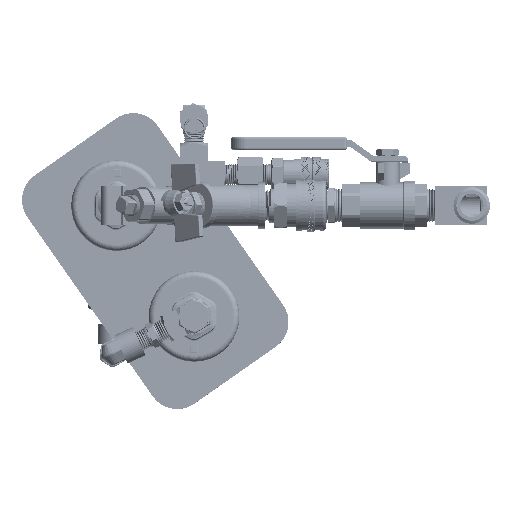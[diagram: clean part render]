
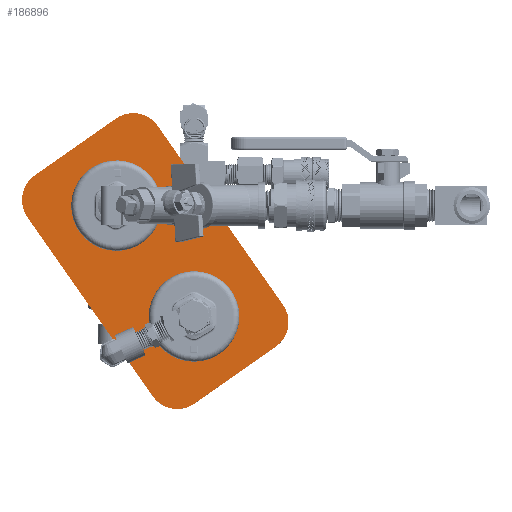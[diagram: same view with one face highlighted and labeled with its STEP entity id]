
A CAD part, top view. The second image highlights one B-rep face of the part: STEP entity #186896.
In plain terms, the highlighted planar face has unit normal (0, 0, 1).
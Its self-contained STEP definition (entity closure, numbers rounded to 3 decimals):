
#463=FACE_BOUND('',#36874,.T.);
#464=FACE_BOUND('',#36875,.T.);
#6568=PLANE('',#204170);
#25698=FACE_OUTER_BOUND('',#36873,.T.);
#36873=EDGE_LOOP('',(#148034,#148035,#148036,#148037,#148038,#148039,#148040,
#148041));
#36874=EDGE_LOOP('',(#148042));
#36875=EDGE_LOOP('',(#148043));
#41556=CIRCLE('',#204171,0.75);
#41557=CIRCLE('',#204172,0.75);
#41558=CIRCLE('',#204173,0.75);
#41559=CIRCLE('',#204174,0.75);
#41560=CIRCLE('',#204175,1.138);
#41561=CIRCLE('',#204176,1.138);
#53049=LINE('',#388310,#67967);
#53050=LINE('',#388314,#67968);
#53051=LINE('',#388318,#67969);
#53052=LINE('',#388321,#67970);
#67967=VECTOR('',#247000,0.394);
#67968=VECTOR('',#247003,0.394);
#67969=VECTOR('',#247006,0.394);
#67970=VECTOR('',#247009,0.394);
#82804=VERTEX_POINT('',#388306);
#82805=VERTEX_POINT('',#388307);
#82806=VERTEX_POINT('',#388309);
#82807=VERTEX_POINT('',#388311);
#82808=VERTEX_POINT('',#388313);
#82809=VERTEX_POINT('',#388315);
#82810=VERTEX_POINT('',#388317);
#82811=VERTEX_POINT('',#388319);
#82812=VERTEX_POINT('',#388322);
#82813=VERTEX_POINT('',#388324);
#105240=EDGE_CURVE('',#82804,#82805,#41556,.T.);
#105241=EDGE_CURVE('',#82804,#82806,#53049,.T.);
#105242=EDGE_CURVE('',#82807,#82806,#41557,.T.);
#105243=EDGE_CURVE('',#82807,#82808,#53050,.T.);
#105244=EDGE_CURVE('',#82809,#82808,#41558,.T.);
#105245=EDGE_CURVE('',#82809,#82810,#53051,.T.);
#105246=EDGE_CURVE('',#82811,#82810,#41559,.T.);
#105247=EDGE_CURVE('',#82811,#82805,#53052,.T.);
#105248=EDGE_CURVE('',#82812,#82812,#41560,.T.);
#105249=EDGE_CURVE('',#82813,#82813,#41561,.T.);
#148034=ORIENTED_EDGE('',*,*,#105240,.F.);
#148035=ORIENTED_EDGE('',*,*,#105241,.T.);
#148036=ORIENTED_EDGE('',*,*,#105242,.F.);
#148037=ORIENTED_EDGE('',*,*,#105243,.T.);
#148038=ORIENTED_EDGE('',*,*,#105244,.F.);
#148039=ORIENTED_EDGE('',*,*,#105245,.T.);
#148040=ORIENTED_EDGE('',*,*,#105246,.F.);
#148041=ORIENTED_EDGE('',*,*,#105247,.T.);
#148042=ORIENTED_EDGE('',*,*,#105248,.F.);
#148043=ORIENTED_EDGE('',*,*,#105249,.F.);
#186896=ADVANCED_FACE('',(#25698,#463,#464),#6568,.F.);
#204170=AXIS2_PLACEMENT_3D('',#388305,#246996,#246997);
#204171=AXIS2_PLACEMENT_3D('',#388308,#246998,#246999);
#204172=AXIS2_PLACEMENT_3D('',#388312,#247001,#247002);
#204173=AXIS2_PLACEMENT_3D('',#388316,#247004,#247005);
#204174=AXIS2_PLACEMENT_3D('',#388320,#247007,#247008);
#204175=AXIS2_PLACEMENT_3D('',#388323,#247010,#247011);
#204176=AXIS2_PLACEMENT_3D('',#388325,#247012,#247013);
#246996=DIRECTION('center_axis',(0.,0.,
-1.));
#246997=DIRECTION('ref_axis',(-0.574,0.819,0.));
#246998=DIRECTION('center_axis',(0.,0.,
-1.));
#246999=DIRECTION('ref_axis',(0.174,0.985,0.));
#247000=DIRECTION('',(-0.819,-0.574,0.));
#247001=DIRECTION('center_axis',(0.,0.,
-1.));
#247002=DIRECTION('ref_axis',(-0.985,0.174,0.));
#247003=DIRECTION('',(0.574,-0.819,0.));
#247004=DIRECTION('center_axis',(0.,0.,
-1.));
#247005=DIRECTION('ref_axis',(-0.174,-0.985,0.));
#247006=DIRECTION('',(0.819,0.574,0.));
#247007=DIRECTION('center_axis',(0.,0.,
-1.));
#247008=DIRECTION('ref_axis',(0.985,-0.174,0.));
#247009=DIRECTION('',(-0.574,0.819,0.));
#247010=DIRECTION('center_axis',(0.,0.,
1.));
#247011=DIRECTION('ref_axis',(0.,-1.,0.));
#247012=DIRECTION('center_axis',(0.,0.,
1.));
#247013=DIRECTION('ref_axis',(0.024,1.,0.));
#388305=CARTESIAN_POINT('Origin',(-8.342,-1.893,-2.604));
#388306=CARTESIAN_POINT('',(-9.326,1.691,-2.604));
#388307=CARTESIAN_POINT('',(-8.281,1.507,-2.604));
#388308=CARTESIAN_POINT('Origin',(-8.896,1.077,-2.604));
#388309=CARTESIAN_POINT('',(-11.374,0.258,-2.604));
#388310=CARTESIAN_POINT('',(-8.711,2.122,-2.604));
#388311=CARTESIAN_POINT('',(-11.558,-0.787,-2.604));
#388312=CARTESIAN_POINT('Origin',(-10.943,-0.357,
-2.604));
#388313=CARTESIAN_POINT('',(-8.403,-5.292,-2.604));
#388314=CARTESIAN_POINT('',(-11.988,-0.173,-2.604));
#388315=CARTESIAN_POINT('',(-7.359,-5.477,-2.604));
#388316=CARTESIAN_POINT('Origin',(-7.789,-4.862,-2.604));
#388317=CARTESIAN_POINT('',(-5.311,-4.043,-2.604));
#388318=CARTESIAN_POINT('',(-7.973,-5.907,-2.604));
#388319=CARTESIAN_POINT('',(-5.127,-2.998,-2.604));
#388320=CARTESIAN_POINT('Origin',(-5.741,-3.428,-2.604));
#388321=CARTESIAN_POINT('',(-4.696,-3.612,-2.604));
#388322=CARTESIAN_POINT('',(-7.367,-2.147,-2.604));
#388323=CARTESIAN_POINT('Origin',(-7.367,-3.285,-2.604));
#388324=CARTESIAN_POINT('',(-9.345,-1.638,-2.604));
#388325=CARTESIAN_POINT('Origin',(-9.317,-0.5,-2.604));
